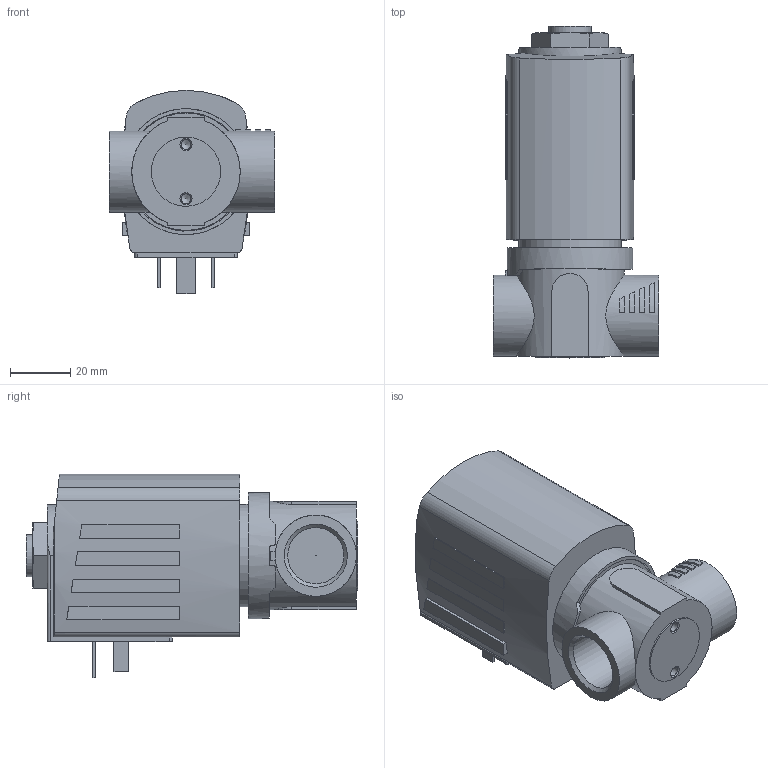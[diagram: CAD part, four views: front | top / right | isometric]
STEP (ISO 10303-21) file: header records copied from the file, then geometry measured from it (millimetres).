
FILE_DESCRIPTION(/* description */ ('STEP AP214'),/* implementation_level */ '2;1');
FILE_NAME(/* name */ '6027-A-12-PTFE___PEEK-VA-G_1_2-42-024___UC',/* time_stamp */ '2024-03-20T12:50:38+01:00',/* author */ ('License CC BY-ND 4.0'),/* organization */ ('CADENAS'),/* preprocessor_version */ 'ST-DEVELOPER v19.3',/* originating_system */ 'PARTsolutions',/* authorisation */ ' ');
FILE_SCHEMA (('AUTOMOTIVE_DESIGN {1 0 10303 214 3 1 1}'));
Length unit declared in the file: millimetre
Products named in the file (3): 6027-A-12-PTFE / PEEK-VA-G 1/2-42-024 / UC; AC10ex-42SG=k-Plan-Coil; V027-Gehaeuse G 1/2 1 1 VA G55 6 1
Assembly tree (2 placements, depth 2):
  6027-A-12-PTFE / PEEK-VA-G 1/2-42-024 / UC
    AC10ex-42SG=k-Plan-Coil
    V027-Gehaeuse G 1/2 1 1 VA G55 6 1
Bounding box: 55 x 110.2 x 67.5 mm (x, y, z)
Volume: 184752.5 mm3; surface area: 29164.2 mm2
Topology: 2 solids, 2 shells, 170 faces, 411 edges, 269 vertices
Faces by surface type: plane 118, cylinder 39, cone 13
Full cylindrical faces by diameter (mm): 0.2 x1, 2.013 x1, 3.242 x2, 14 x1, 18.631 x2, 23 x1, 27 x2, 34 x1, 36 x1, 39 x1, 39.5 x1, 41.8 x1
Entity records: 5607 total; most frequent: CARTESIAN_POINT 969, DIRECTION 819, ORIENTED_EDGE 760, EDGE_CURVE 380, AXIS2_PLACEMENT_3D 297, VERTEX_POINT 262, LINE 225, VECTOR 225
